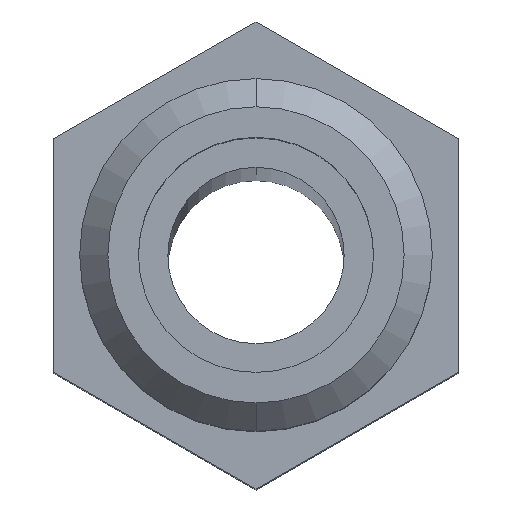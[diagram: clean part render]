
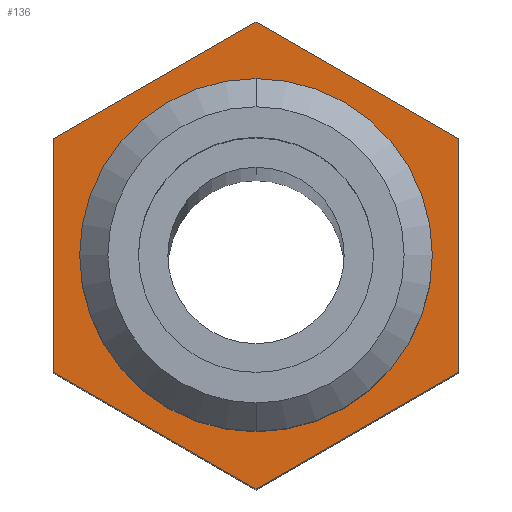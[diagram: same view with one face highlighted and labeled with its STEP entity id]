
A CAD part, top view. The second image highlights one B-rep face of the part: STEP entity #136.
In plain terms, the highlighted planar face has unit normal (0, 0, 1).
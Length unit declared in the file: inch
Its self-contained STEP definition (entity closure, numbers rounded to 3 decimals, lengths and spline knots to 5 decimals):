
#1 = CARTESIAN_POINT ( 'NONE',  ( 0., 0., 0. ) ) ;
#8 = CARTESIAN_POINT ( 'NONE',  ( 0.215, 0.12413, 0. ) ) ;
#16 = CARTESIAN_POINT ( 'NONE',  ( -0.215, -0.12413, 0. ) ) ;
#27 = CARTESIAN_POINT ( 'NONE',  ( 0.215, 0.12413, 0. ) ) ;
#39 = EDGE_CURVE ( 'NONE', #310, #173, #408, .T. ) ;
#85 = CARTESIAN_POINT ( 'NONE',  ( 0., -0.1875, 0. ) ) ;
#101 = LINE ( 'NONE', #659, #146 ) ;
#107 = DIRECTION ( 'NONE',  ( 0., 1., 0. ) ) ;
#114 = VERTEX_POINT ( 'NONE', #700 ) ;
#115 = VECTOR ( 'NONE', #107, 39.37008 ) ;
#121 = ORIENTED_EDGE ( 'NONE', *, *, #473, .T. ) ;
#136 = ADVANCED_FACE ( 'NONE', ( #138, #209 ), #342, .T. ) ;
#138 = FACE_BOUND ( 'NONE', #306, .T. ) ;
#145 = DIRECTION ( 'NONE',  ( 0., -1., 0. ) ) ;
#146 = VECTOR ( 'NONE', #145, 39.37008 ) ;
#172 = VERTEX_POINT ( 'NONE', #8 ) ;
#173 = VERTEX_POINT ( 'NONE', #920 ) ;
#198 = DIRECTION ( 'NONE',  ( 0., 1., 0. ) ) ;
#203 = CIRCLE ( 'NONE', #729, 0.1875 ) ;
#209 = FACE_OUTER_BOUND ( 'NONE', #436, .T. ) ;
#218 = CARTESIAN_POINT ( 'NONE',  ( 0., 0.24826, 0. ) ) ;
#255 = LINE ( 'NONE', #608, #115 ) ;
#258 = ORIENTED_EDGE ( 'NONE', *, *, #818, .T. ) ;
#282 = EDGE_CURVE ( 'NONE', #547, #114, #715, .T. ) ;
#306 = EDGE_LOOP ( 'NONE', ( #121, #528 ) ) ;
#310 = VERTEX_POINT ( 'NONE', #85 ) ;
#311 = AXIS2_PLACEMENT_3D ( 'NONE', #767, #626, #559 ) ;
#341 = DIRECTION ( 'NONE',  ( -0.866, -0.5, 0. ) ) ;
#342 = PLANE ( 'NONE',  #311 ) ;
#343 = DIRECTION ( 'NONE',  ( 0., 0., -1. ) ) ;
#366 = DIRECTION ( 'NONE',  ( 0., 0., -1. ) ) ;
#382 = ORIENTED_EDGE ( 'NONE', *, *, #726, .T. ) ;
#408 = CIRCLE ( 'NONE', #878, 0.1875 ) ;
#436 = EDGE_LOOP ( 'NONE', ( #680, #382, #799, #895, #258, #601 ) ) ;
#452 = EDGE_CURVE ( 'NONE', #598, #718, #691, .T. ) ;
#473 = EDGE_CURVE ( 'NONE', #173, #310, #203, .T. ) ;
#487 = CARTESIAN_POINT ( 'NONE',  ( 0., 0.24826, 0. ) ) ;
#528 = ORIENTED_EDGE ( 'NONE', *, *, #39, .T. ) ;
#547 = VERTEX_POINT ( 'NONE', #708 ) ;
#559 = DIRECTION ( 'NONE',  ( 0., -1., 0. ) ) ;
#560 = VECTOR ( 'NONE', #731, 39.37008 ) ;
#567 = CARTESIAN_POINT ( 'NONE',  ( 0., 0., 0. ) ) ;
#581 = LINE ( 'NONE', #27, #560 ) ;
#598 = VERTEX_POINT ( 'NONE', #218 ) ;
#601 = ORIENTED_EDGE ( 'NONE', *, *, #690, .T. ) ;
#606 = VERTEX_POINT ( 'NONE', #703 ) ;
#608 = CARTESIAN_POINT ( 'NONE',  ( 0.215, -0.12413, 0. ) ) ;
#626 = DIRECTION ( 'NONE',  ( 0., 0., 1. ) ) ;
#658 = EDGE_CURVE ( 'NONE', #114, #606, #787, .T. ) ;
#659 = CARTESIAN_POINT ( 'NONE',  ( -0.215, 0.12413, 0. ) ) ;
#662 = DIRECTION ( 'NONE',  ( 0., 1., 0. ) ) ;
#680 = ORIENTED_EDGE ( 'NONE', *, *, #452, .T. ) ;
#690 = EDGE_CURVE ( 'NONE', #172, #598, #581, .T. ) ;
#691 = LINE ( 'NONE', #487, #769 ) ;
#700 = CARTESIAN_POINT ( 'NONE',  ( 0., -0.24826, 0. ) ) ;
#703 = CARTESIAN_POINT ( 'NONE',  ( 0.215, -0.12413, 0. ) ) ;
#708 = CARTESIAN_POINT ( 'NONE',  ( -0.215, -0.12413, 0. ) ) ;
#715 = LINE ( 'NONE', #16, #898 ) ;
#718 = VERTEX_POINT ( 'NONE', #798 ) ;
#723 = CARTESIAN_POINT ( 'NONE',  ( 0., -0.24826, 0. ) ) ;
#726 = EDGE_CURVE ( 'NONE', #718, #547, #101, .T. ) ;
#729 = AXIS2_PLACEMENT_3D ( 'NONE', #1, #343, #198 ) ;
#731 = DIRECTION ( 'NONE',  ( -0.866, 0.5, 0. ) ) ;
#761 = VECTOR ( 'NONE', #853, 39.37008 ) ;
#767 = CARTESIAN_POINT ( 'NONE',  ( 0., 0.1875, 0. ) ) ;
#769 = VECTOR ( 'NONE', #341, 39.37008 ) ;
#787 = LINE ( 'NONE', #723, #761 ) ;
#790 = DIRECTION ( 'NONE',  ( 0.866, -0.5, 0. ) ) ;
#798 = CARTESIAN_POINT ( 'NONE',  ( -0.215, 0.12413, 0. ) ) ;
#799 = ORIENTED_EDGE ( 'NONE', *, *, #282, .T. ) ;
#818 = EDGE_CURVE ( 'NONE', #606, #172, #255, .T. ) ;
#853 = DIRECTION ( 'NONE',  ( 0.866, 0.5, 0. ) ) ;
#878 = AXIS2_PLACEMENT_3D ( 'NONE', #567, #366, #662 ) ;
#895 = ORIENTED_EDGE ( 'NONE', *, *, #658, .T. ) ;
#898 = VECTOR ( 'NONE', #790, 39.37008 ) ;
#920 = CARTESIAN_POINT ( 'NONE',  ( 0., 0.1875, 0. ) ) ;
